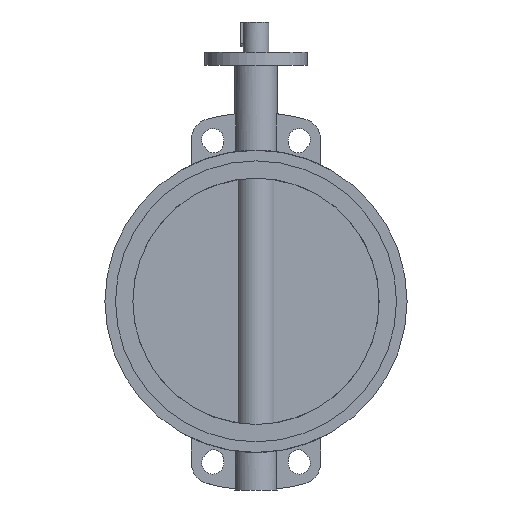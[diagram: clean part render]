
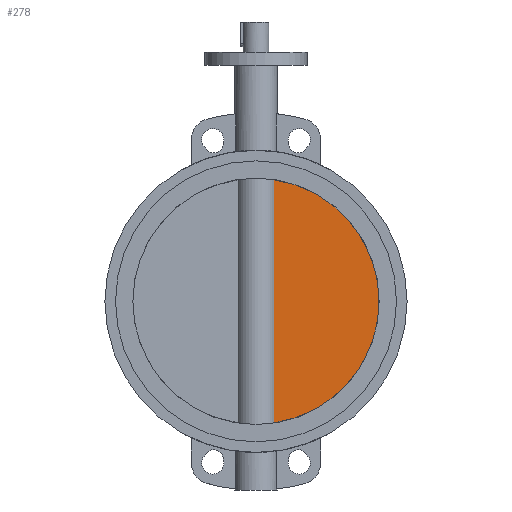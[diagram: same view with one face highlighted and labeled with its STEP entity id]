
A CAD part, left-side view. The second image highlights one B-rep face of the part: STEP entity #278.
In plain terms, the highlighted planar face has unit normal (-1, 0, 0).
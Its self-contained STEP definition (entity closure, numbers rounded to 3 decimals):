
#278=ADVANCED_FACE('',(#7423),#7425,.F.);
#7423=FACE_BOUND('',#7424,.T.);
#7424=EDGE_LOOP('',(#13537,#13538));
#7425=PLANE('',#7426);
#7426=AXIS2_PLACEMENT_3D('',#7427,#7428,#7429);
#7427=CARTESIAN_POINT('',(-10.,0.,0.));
#7428=DIRECTION('',(1.,0.,0.));
#7429=DIRECTION('',(0.,1.,0.));
#13537=ORIENTED_EDGE('',*,*,#18040,.T.);
#13538=ORIENTED_EDGE('',*,*,#17436,.T.);
#17436=EDGE_CURVE('',#19741,#19739,#19742,.F.);
#18040=EDGE_CURVE('',#19739,#19741,#20926,.T.);
#19739=VERTEX_POINT('',#23825);
#19741=VERTEX_POINT('',#23897);
#19742=CIRCLE('',#23898,150.8);
#20926=LINE('',#26974,#26975);
#23825=CARTESIAN_POINT('',(-10.,-21.817,149.213));
#23897=CARTESIAN_POINT('',(-10.,-21.817,-149.213));
#23898=AXIS2_PLACEMENT_3D('',#23899,#23900,#23901);
#23899=CARTESIAN_POINT('',(-10.,0.,0.));
#23900=DIRECTION('',(1.,0.,0.));
#23901=DIRECTION('',(0.,-0.145,0.989));
#26974=CARTESIAN_POINT('',(-10.,-21.817,149.213));
#26975=VECTOR('',#26976,1.);
#26976=DIRECTION('',(0.,0.,-1.));
